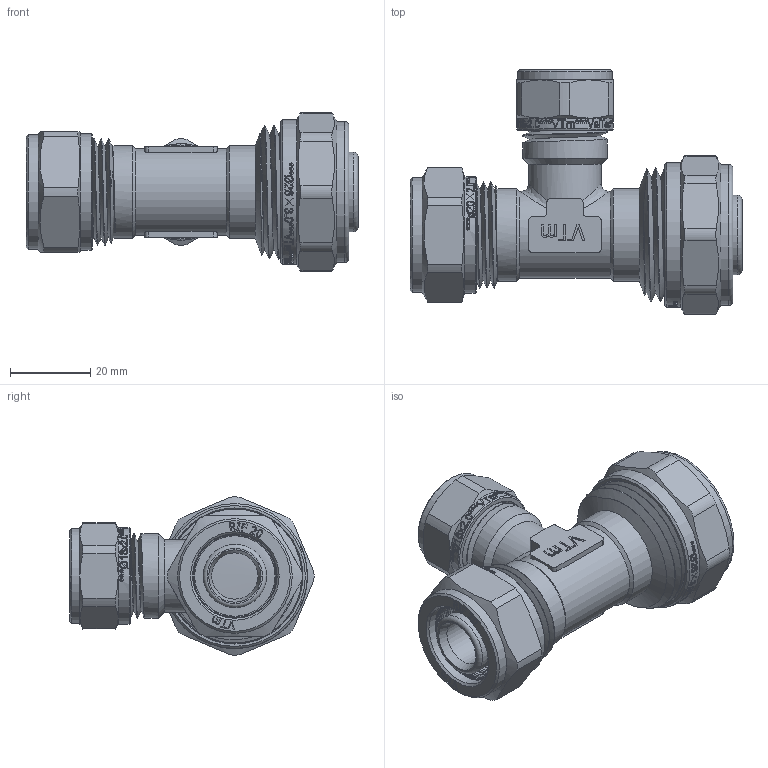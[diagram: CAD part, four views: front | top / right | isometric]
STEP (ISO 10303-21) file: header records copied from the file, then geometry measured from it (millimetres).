
FILE_DESCRIPTION(/* description */ (''),/* implementation_level */ '2;1');
FILE_NAME(/* name */ 'E:\Артём\00000\Работа удаленка\Обжимные фитинги\VTm.331.N.261620.stp',/* time_stamp */ '2020-06-30T13:03:24+03:00',/* author */ ('BeN_GaN'),/* organization */ (''),/* preprocessor_version */ 'ST-DEVELOPER v18',/* originating_system */ 'Autodesk Inventor 2020',/* authorisation */ '');
FILE_SCHEMA (('AUTOMOTIVE_DESIGN { 1 0 10303 214 3 1 1 }'));
Length unit declared in the file: millimetre
Products named in the file (1): VTm.331.N.262016
Bounding box: 82.5 x 60.69 x 39.39 mm (x, y, z)
Volume: 39860.4 mm3; surface area: 30352.2 mm2
Topology: 2 solids, 3 shells, 2016 faces, 5684 edges, 3833 vertices
Faces by surface type: bspline 1086, plane 564, cylinder 242, torus 71, cone 53
Full cylindrical faces by diameter (mm): 8 x1, 9.4 x2, 11.5 x1, 11.75 x4, 13.4 x2, 15 x1, 15.75 x4, 16 x4, 16.2 x1, 16.6 x5, 17 x1, 17.4 x5, 18 x1, 18.6 x2, 19.8 x5, 19.986 x4, 20.2 x1, 20.728 x5, 21 x2, 21.5 x1, 22.8 x5, 23 x2, 23.201 x1, 23.5 x1, 24 x1, 24.2 x2, 24.516 x4, 25.435 x5, 26.2 x1, 26.4 x2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
Entity records: 87650 total; most frequent: CARTESIAN_POINT 42349, ORIENTED_EDGE 11378, DIRECTION 6064, EDGE_CURVE 5689, VERTEX_POINT 3838, LINE 2414, VECTOR 2414, B_SPLINE_CURVE_WITH_KNOTS 2329
